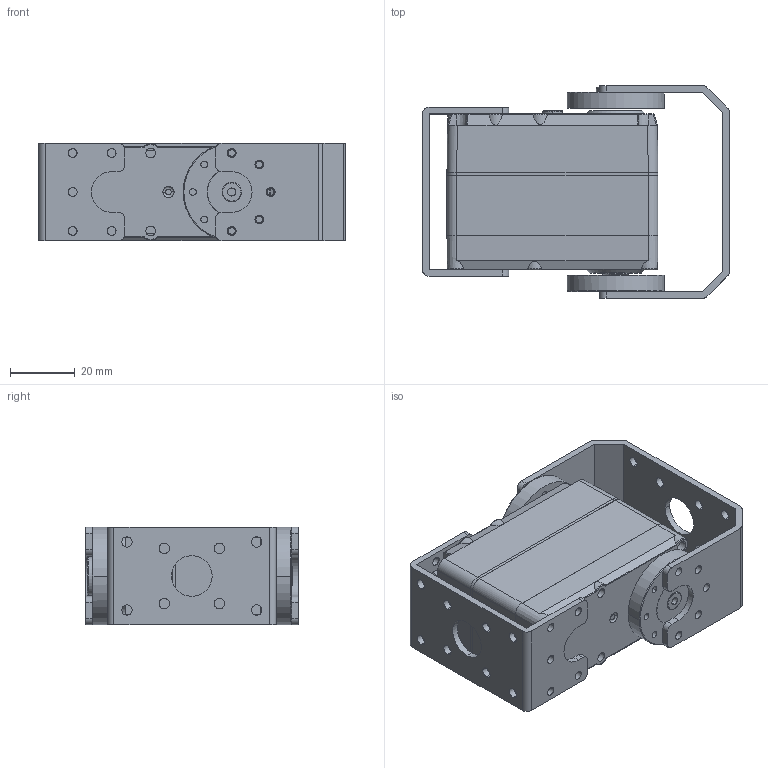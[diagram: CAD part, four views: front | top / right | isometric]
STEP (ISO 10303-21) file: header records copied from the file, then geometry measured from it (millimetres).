
FILE_DESCRIPTION((''),'2;1');
FILE_NAME('ASM-SHUAGNZHOU_ASM_83_ASM','2022-05-16T',('Administrator'),(''),'CREO PARAMETRIC BY PTC INC, 2014350','CREO PARAMETRIC BY PTC INC, 2014350','');
FILE_SCHEMA(('CONFIG_CONTROL_DESIGN'));
Length unit declared in the file: millimetre
Products named in the file (13): ASM-A_SKEL_57; MOTOR-280_17; GM_7; SG_99; ZK_77; DG_63; LVKE-6530_26; BEISHIZHOUCHENG-6-13-5_1; DDP-1_32; DDP-CD_17; BIG-SHORT-U; BIG-LONG-U; ASM-SHUAGNZHOU_ASM_83_ASM
Assembly tree (12 placements, depth 2):
  ASM-SHUAGNZHOU_ASM_83_ASM
    ASM-A_SKEL_57
    MOTOR-280_17
    GM_7
    SG_99
    ZK_77
    DG_63
    LVKE-6530_26
    BEISHIZHOUCHENG-6-13-5_1
    DDP-1_32
    DDP-CD_17
    BIG-SHORT-U
    BIG-LONG-U
Bounding box: 94.5 x 65.5 x 30 mm (x, y, z)
Volume: 89402.4 mm3; surface area: 55335.7 mm2
Topology: 11 solids, 16 shells, 931 faces, 2673 edges, 1822 vertices
Faces by surface type: cylinder 510, plane 284, extrusion 64, torus 41, cone 20, sphere 8, bspline 4
Entity records: 33984 total; most frequent: CARTESIAN_POINT 8122, DIRECTION 5562, ORIENTED_EDGE 5330, EDGE_CURVE 2665, AXIS2_PLACEMENT_3D 2181, VERTEX_POINT 1822, CIRCLE 1289, VECTOR 1200
